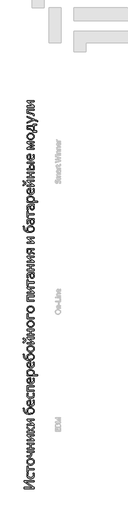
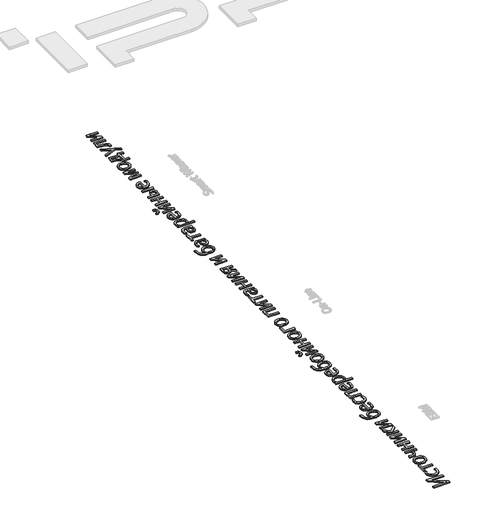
# One storey, part 2 of 10: 1 proxy.
"""IFC4 building model written with IfcOpenShell, lengths in millimetres."""

from ifc_helpers import new_model, si_unit, origin, origin_with_axes, place, context, project, spatial, polyline, outline, extrude, element, save

model = new_model("IFC4")

# Units and contexts
model_context = context("Model", 3, world=origin())
ifc_project = project(units=[si_unit("LENGTHUNIT", "METRE", prefix="MILLI")], contexts=[model_context])

# Site, building, storey
site = spatial("IfcSite", under=ifc_project)
building = spatial("IfcBuilding", under=site)
storey = spatial("IfcBuildingStorey", under=building, Name="Этаж 01", Elevation=0.0)

# Proxy
placement = place(None, origin())
element("IfcBuildingElementProxy", 1, Name="300 мм Corbel", ObjectType="300 мм Corbel", at=placement, inside=storey, context=model_context, shape_type="SweptSolid", body=[
    extrude(outline(polyline([(1442.0785227, -10444.0301069), (1442.0785227, -10407.4240139), (1742.5788966, -10407.4240139), (1742.5788966, -10446.377766), (1606.6755157, -10446.377766), (1493.2922728, -10443.5084048), (1575.0255921, -10498.5479698), (1742.5788966, -10615.6700774), (1742.5788966, -10652.2761704), (1442.0785227, -10652.2761704), (1442.0785227, -10613.3224182), (1593.8938158, -10613.3224182), (1691.3651465, -10616.1917794), (1609.6318273, -10561.1522144), (1442.0785227, -10444.0301069)])), origin_with_axes(), (0.0, 0.0, 1.0), 20.0),
    extrude(outline(polyline([(1525.5508488, -10251.3481542), (1528.6375859, -10221.9154642), (1537.2021943, -10197.8736953), (1564.504601, -10197.8736953), (1556.1573684, -10223.7414213), (1553.3749575, -10247.7831903), (1557.7224745, -10273.4335405), (1572.0258054, -10296.1275791), (1583.5902005, -10305.1595456), (1598.3717583, -10312.2568671), (1616.7291487, -10316.8543663), (1639.0210421, -10318.3868661), (1671.5404691, -10313.8219732), (1697.2777696, -10300.2577202), (1706.9509949, -10290.1062681), (1714.2330859, -10277.6506319), (1718.7979787, -10262.9886309), (1720.3196097, -10246.2180841), (1717.4067733, -10220.1764574), (1709.1899662, -10194.5695824), (1736.6662735, -10194.5695824), (1740.883365, -10204.4384459), (1744.6222296, -10217.9157486), (1747.1872646, -10233.5233346), (1748.1437183, -10250.0438991), (1746.5351371, -10270.8467679), (1741.7093932, -10290.475807), (1733.5360613, -10308.1375948), (1721.8847158, -10323.0387092), (1706.7227503, -10335.0813313), (1688.0175585, -10344.1676418), (1665.6604524, -10349.8737578), (1639.5427441, -10351.7757965), (1601.893247, -10347.7760809), (1572.5040322, -10336.7333877), (1550.8968728, -10320.0389225), (1536.3326909, -10298.90999), (1528.1158838, -10275.1725473), (1525.5508488, -10251.3481542)])), origin_with_axes(), (0.0, 0.0, 1.0), 20.0),
    extrude(outline(polyline([(1558.9397792, -10090.2291748), (1558.9397792, -10162.224056), (1531.1156706, -10162.224056), (1531.1156706, -9984.8453631), (1558.9397792, -9984.8453631), (1558.9397792, -10056.8402444), (1742.5788966, -10056.8402444), (1742.5788966, -10090.2291748), (1558.9397792, -10090.2291748)])), origin_with_axes(), (0.0, 0.0, 1.0), 20.0),
    extrude(outline(polyline([(1637.1081346, -9750.7750487), (1660.8781837, -9752.5466619), (1682.4527367, -9757.8615014), (1701.4622547, -9766.4261099), (1717.5371988, -9777.9470299), (1730.4927994, -9792.3047047), (1740.1442871, -9809.3795777), (1746.1438605, -9828.9216665), (1748.1437183, -9850.680989), (1746.1438605, -9872.9946199), (1740.1442871, -9892.8084286), (1730.4927994, -9909.9811207), (1717.5371988, -9924.3714019), (1701.4622547, -9935.8379779), (1682.4527367, -9944.2395545), (1660.8781837, -9949.3913621), (1637.1081346, -9951.1086313), (1613.0772345, -9949.3370182), (1591.4157311, -9944.0221786), (1572.3844755, -9935.4575702), (1556.2443187, -9923.9366502), (1543.2235053, -9909.546369), (1533.5502801, -9892.3736769), (1527.5507066, -9872.7337689), (1525.5508488, -9850.94184), (1527.5507066, -9828.8021098), (1533.5502801, -9808.9883012), (1543.2235053, -9791.7721339), (1556.2443187, -9777.4253279), (1572.3844755, -9766.0239646), (1591.4157311, -9757.6441256), (1613.0772345, -9752.492318), (1637.1081346, -9750.7750487)]), holes=[polyline([(1637.1081346, -9784.1639792), (1601.5889208, -9789.1201485), (1575.2864431, -9802.9887277), (1558.9397792, -9824.1611354), (1553.3749575, -9850.94184), (1558.9397792, -9877.7225447), (1575.2864431, -9898.8949524), (1601.5889208, -9912.7635315), (1637.1081346, -9917.7197009), (1672.3664973, -9912.7635315), (1698.5385496, -9898.7645269), (1714.7547879, -9877.5051688), (1720.3196097, -9850.680989), (1714.7547879, -9824.0307099), (1698.5385496, -9802.9887277), (1672.3664973, -9789.1201485), (1637.1081346, -9784.1639792)])]), origin_with_axes(), (0.0, 0.0, 1.0), 20.0),
    extrude(outline(polyline([(1649.5420332, -9572.7007531), (1660.236925, -9597.9163516), (1664.6713923, -9631.9139344), (1661.7585559, -9658.6076887), (1651.1940896, -9682.7798831), (1642.1186479, -9692.3444205), (1630.1955826, -9699.8221497), (1614.9684044, -9704.6478936), (1595.9806239, -9706.2564748), (1531.1156706, -9706.2564748), (1531.1156706, -9672.8675444), (1592.154809, -9672.8675444), (1610.1535293, -9670.9981121), (1624.3699098, -9664.2594608), (1633.5866458, -9650.9125836), (1636.8472836, -9629.4793249), (1632.7171424, -9598.3945785), (1620.7614707, -9572.7007531), (1531.1156706, -9572.7007531), (1531.1156706, -9539.3118227), (1742.5788966, -9539.3118227), (1742.5788966, -9572.7007531), (1649.5420332, -9572.7007531)])), origin_with_axes(), (0.0, 0.0, 1.0), 20.0),
    extrude(outline(polyline([(1742.5788966, -9333.4134184), (1647.9769271, -9333.4134184), (1647.9769271, -9439.1450314), (1742.5788966, -9439.1450314), (1742.5788966, -9472.5339618), (1531.1156706, -9472.5339618), (1531.1156706, -9439.1450314), (1620.1528184, -9439.1450314), (1620.1528184, -9333.4134184), (1531.1156706, -9333.4134184), (1531.1156706, -9300.0244879), (1742.5788966, -9300.0244879), (1742.5788966, -9333.4134184)])), origin_with_axes(), (0.0, 0.0, 1.0), 20.0),
    extrude(outline(polyline([(1742.5788966, -9196.9883354), (1742.5788966, -9227.6818053), (1531.1156706, -9227.6818053), (1531.1156706, -9194.2928749), (1647.1074237, -9194.2928749), (1692.9302527, -9195.4232293), (1669.7579871, -9179.1635158), (1642.846857, -9159.512739), (1531.1156706, -9074.7361579), (1531.1156706, -9044.042688), (1742.5788966, -9044.042688), (1742.5788966, -9077.4316184), (1626.5871435, -9077.4316184), (1580.7643145, -9076.301264), (1603.93658, -9092.6479278), (1630.8477101, -9112.3856549), (1742.5788966, -9196.9883354)])), origin_with_axes(), (0.0, 0.0, 1.0), 20.0),
    extrude(outline(polyline([(1634.5865747, -8943.7672088), (1531.1156706, -8851.1868346), (1531.1156706, -8807.1030124), (1636.4125319, -8902.6614357), (1742.5788966, -8801.2773396), (1742.5788966, -8845.8828639), (1638.9340917, -8943.441145), (1742.5788966, -8943.8758967), (1742.5788966, -8977.2648271), (1531.1156706, -8977.2648271), (1531.1156706, -8943.8758967), (1634.5865747, -8943.7672088)])), origin_with_axes(), (0.0, 0.0, 1.0), 20.0),
    extrude(outline(polyline([(1742.5788966, -8729.5433094), (1742.5788966, -8760.2367793), (1531.1156706, -8760.2367793), (1531.1156706, -8726.8478489), (1647.1074237, -8726.8478489), (1692.9302527, -8727.9782033), (1669.7579871, -8711.7184898), (1642.846857, -8692.067713), (1531.1156706, -8607.2911318), (1531.1156706, -8576.5976619), (1742.5788966, -8576.5976619), (1742.5788966, -8609.9865924), (1626.5871435, -8609.9865924), (1580.7643145, -8608.856238), (1603.93658, -8625.2029018), (1630.8477101, -8644.9406289), (1742.5788966, -8729.5433094)])), origin_with_axes(), (0.0, 0.0, 1.0), 20.0),
    extrude(outline(polyline([(1554.3314112, -8394.2627997), (1537.1587192, -8359.9608907), (1531.1156706, -8326.0937334), (1532.767727, -8306.7472828), (1537.7238964, -8289.40069), (1545.8428843, -8274.2387246), (1556.9833966, -8261.4461558), (1571.1345644, -8251.1534094), (1588.2855189, -8243.4909107), (1608.3167034, -8238.7303796), (1631.1085612, -8237.1435359), (1656.6936986, -8238.7847236), (1679.713801, -8243.7082865), (1699.7993295, -8251.7837993), (1716.5807451, -8262.8808364), (1729.9819662, -8276.9341851), (1739.9269113, -8293.8786325), (1746.0895166, -8313.5620157), (1748.1437183, -8335.8321714), (1745.9699599, -8357.3958557), (1739.4486844, -8376.5249304), (1728.2864345, -8393.0237573), (1712.1897529, -8406.6966982), (1691.0064764, -8417.5111467), (1664.5844419, -8425.4344964), (1632.6519297, -8430.2928467), (1594.9372199, -8431.9122967), (1557.8420312, -8430.2167651), (1525.6812743, -8425.1301703), (1498.2158358, -8416.3590547), (1475.2066021, -8403.6099612), (1456.6100983, -8386.7633329), (1442.3828489, -8365.6996131), (1432.3292159, -8340.147082), (1426.2535609, -8309.8340199), (1419.8192358, -8257.2290644), (1447.6433445, -8257.2290644), (1454.2515703, -8308.7036654), (1461.8162498, -8345.440184), (1468.0440679, -8359.78699), (1477.1629848, -8371.6122362), (1489.7490465, -8380.9593977), (1506.3782989, -8387.8719497), (1554.3314112, -8394.2627997)]), holes=[polyline([(1558.9397792, -8333.2236612), (1560.6244421, -8350.048552), (1565.6784306, -8367.3081944), (1583.2858743, -8398.5233663), (1604.3278565, -8399.218969), (1655.9763583, -8394.5671259), (1691.9737989, -8381.2637239), (1704.4294351, -8371.7209241), (1713.2766321, -8360.3956424), (1718.5588653, -8347.4943857), (1720.3196097, -8333.2236612), (1714.5808872, -8307.2689848), (1707.4618282, -8296.5849619), (1697.5820958, -8287.5747329), (1669.7579871, -8274.9669337), (1631.8911142, -8270.5324663), (1598.3282831, -8275.8799122), (1575.7211948, -8289.9658672), (1562.9394949, -8310.0513957), (1558.9397792, -8333.2236612)])]), origin_with_axes(), (0.0, 0.0, 1.0), 20.0),
    extrude(outline(polyline([(1720.3196097, -8082.6327823), (1717.4067733, -8051.2871849), (1709.1899662, -8023.0717997), (1736.6662735, -8023.0717997), (1745.0569813, -8051.1567594), (1748.1437183, -8087.0672496), (1742.3615208, -8129.7163912), (1734.7968412, -8148.1498633), (1723.6671977, -8163.5400734), (1708.7769521, -8175.8435464), (1689.9304659, -8185.0168073), (1666.9647075, -8190.7229233), (1639.7166448, -8192.624962), (1612.6968267, -8190.6468418), (1589.5462988, -8184.7124811), (1570.0694227, -8175.4957451), (1554.0705602, -8163.6704989), (1541.5931865, -8149.5410687), (1532.6807767, -8133.4117807), (1527.3333308, -8115.9130248), (1525.5508488, -8097.6751911), (1531.3765216, -8064.894913), (1538.8759884, -8050.6785325), (1549.7230432, -8038.4620098), (1564.0589805, -8028.4301143), (1582.0250944, -8020.7676157), (1603.7735481, -8015.9092654), (1629.4565047, -8014.2898153), (1633.9344472, -8014.2898153), (1642.4121053, -8014.5506664), (1642.4121053, -8161.0619887), (1662.1063573, -8159.529489), (1678.5834466, -8154.9319897), (1692.0390117, -8147.6825052), (1702.6686907, -8138.1940494), (1716.1025182, -8113.3262522), (1720.3196097, -8082.6327823)]), holes=[polyline([(1553.3749575, -8099.1533469), (1558.2007014, -8122.0212862), (1571.3302026, -8140.4547582), (1590.7636036, -8153.2364581), (1614.5879966, -8159.2360316), (1614.5879966, -8047.9395968), (1590.5462277, -8051.2871849), (1571.1128268, -8061.1560484), (1558.113751, -8077.1549109), (1553.3749575, -8099.1533469)])]), origin_with_axes(), (0.0, 0.0, 1.0), 20.0),
    extrude(outline(polyline([(1525.5508488, -7864.0396284), (1528.6375859, -7834.6069384), (1537.2021943, -7810.5651695), (1564.504601, -7810.5651695), (1556.1573684, -7836.4328956), (1553.3749575, -7860.4746645), (1557.7224745, -7886.1250147), (1572.0258054, -7908.8190533), (1583.5902005, -7917.8510199), (1598.3717583, -7924.9483413), (1616.7291487, -7929.5458406), (1639.0210421, -7931.0783403), (1671.5404691, -7926.5134475), (1697.2777696, -7912.9491945), (1706.9509949, -7902.7977423), (1714.2330859, -7890.3421062), (1718.7979787, -7875.6801051), (1720.3196097, -7858.9095584), (1717.4067733, -7832.8679316), (1709.1899662, -7807.2610566), (1736.6662735, -7807.2610566), (1740.883365, -7817.1299202), (1744.6222296, -7830.6072228), (1747.1872646, -7846.2148088), (1748.1437183, -7862.7353733), (1746.5351371, -7883.5382421), (1741.7093932, -7903.1672813), (1733.5360613, -7920.829069), (1721.8847158, -7935.7301835), (1706.7227503, -7947.7728055), (1688.0175585, -7956.859116), (1665.6604524, -7962.565232), (1639.5427441, -7964.4672707), (1601.893247, -7960.4675551), (1572.5040322, -7949.424862), (1550.8968728, -7932.7303967), (1536.3326909, -7911.6014642), (1528.1158838, -7887.8640215), (1525.5508488, -7864.0396284)])), origin_with_axes(), (0.0, 0.0, 1.0), 20.0),
    extrude(outline(polyline([(1558.9397792, -7719.6151142), (1742.5788966, -7719.6151142), (1742.5788966, -7753.0040447), (1531.1156706, -7753.0040447), (1531.1156706, -7580.4945708), (1742.5788966, -7580.4945708), (1742.5788966, -7613.8835012), (1558.9397792, -7613.8835012), (1558.9397792, -7719.6151142)])), origin_with_axes(), (0.0, 0.0, 1.0), 20.0),
    extrude(outline(polyline([(1720.3196097, -7414.8541737), (1717.4067733, -7383.5085763), (1709.1899662, -7355.293191), (1736.6662735, -7355.293191), (1745.0569813, -7383.3781508), (1748.1437183, -7419.288641), (1742.3615208, -7461.9377826), (1734.7968412, -7480.3712546), (1723.6671977, -7495.7614648), (1708.7769521, -7508.0649378), (1689.9304659, -7517.2381987), (1666.9647075, -7522.9443147), (1639.7166448, -7524.8463534), (1612.6968267, -7522.8682332), (1589.5462988, -7516.9338725), (1570.0694227, -7507.7171365), (1554.0705602, -7495.8918903), (1541.5931865, -7481.7624601), (1532.6807767, -7465.6331721), (1527.3333308, -7448.1344162), (1525.5508488, -7429.8965825), (1531.3765216, -7397.1163044), (1538.8759884, -7382.8999239), (1549.7230432, -7370.6834012), (1564.0589805, -7360.6515057), (1582.0250944, -7352.989007), (1603.7735481, -7348.1306568), (1629.4565047, -7346.5112067), (1633.9344472, -7346.5112067), (1642.4121053, -7346.7720578), (1642.4121053, -7493.2833801), (1662.1063573, -7491.7508804), (1678.5834466, -7487.1533811), (1692.0390117, -7479.9038966), (1702.6686907, -7470.4154408), (1716.1025182, -7445.5476436), (1720.3196097, -7414.8541737)]), holes=[polyline([(1553.3749575, -7431.3747382), (1558.2007014, -7454.2426776), (1571.3302026, -7472.6761496), (1590.7636036, -7485.4578495), (1614.5879966, -7491.457423), (1614.5879966, -7380.1609882), (1590.5462277, -7383.5085763), (1571.1128268, -7393.3774398), (1558.113751, -7409.3763023), (1553.3749575, -7431.3747382)])]), origin_with_axes(), (0.0, 0.0, 1.0), 20.0),
    extrude(outline(polyline([(1634.4126741, -7101.9199013), (1673.4533766, -7106.2239431), (1703.1903927, -7117.5274872), (1724.4497508, -7133.9611014), (1738.2313796, -7153.5249279), (1745.7960592, -7174.0886832), (1748.1437183, -7193.7394599), (1746.5568747, -7211.596886), (1741.7963436, -7226.9110145), (1733.9273378, -7240.2470229), (1723.0150702, -7252.1700882), (1848.3105096, -7252.7787406), (1848.3105096, -7285.5590186), (1531.1156706, -7285.5590186), (1531.1156706, -7260.0825691), (1555.1139643, -7252.8656909), (1546.4624055, -7244.9097348), (1537.4630453, -7232.910588), (1529.1158127, -7214.7814421), (1525.5508488, -7191.7396021), (1531.5504222, -7158.0898207), (1539.3324776, -7142.7865609), (1550.679497, -7129.3962086), (1565.6784306, -7118.1904836), (1584.4162288, -7109.4411056), (1607.2189553, -7103.8002024), (1634.4126741, -7101.9199013)]), holes=[polyline([(1634.6735251, -7135.3088317), (1600.849843, -7139.221597), (1575.3299183, -7150.9598928), (1559.0702048, -7170.2193931), (1553.3749575, -7196.6088212), (1556.4616946, -7216.2161228), (1564.24375, -7232.2149852), (1574.3734645, -7244.5184583), (1584.0684274, -7252.7787406), (1694.7562098, -7252.7787406), (1713.4505328, -7227.8239931), (1718.6023404, -7213.3032864), (1720.3196097, -7197.7391756), (1716.5807451, -7176.9580444), (1703.1903927, -7156.6986153), (1676.9313902, -7141.3518803), (1658.0631665, -7136.8195938), (1634.6735251, -7135.3088317)])]), origin_with_axes(), (0.0, 0.0, 1.0), 20.0),
    extrude(outline(polyline([(1720.3196097, -6941.8443259), (1717.4067733, -6910.4987285), (1709.1899662, -6882.2833433), (1736.6662735, -6882.2833433), (1745.0569813, -6910.368303), (1748.1437183, -6946.2787933), (1742.3615208, -6988.9279349), (1734.7968412, -7007.3614069), (1723.6671977, -7022.751617), (1708.7769521, -7035.0550901), (1689.9304659, -7044.2283509), (1666.9647075, -7049.9344669), (1639.7166448, -7051.8365056), (1612.6968267, -7049.8583854), (1589.5462988, -7043.9240247), (1570.0694227, -7034.7072887), (1554.0705602, -7022.8820425), (1541.5931865, -7008.7526123), (1532.6807767, -6992.6233243), (1527.3333308, -6975.1245685), (1525.5508488, -6956.8867347), (1531.3765216, -6924.1064567), (1538.8759884, -6909.8900761), (1549.7230432, -6897.6735534), (1564.0589805, -6887.641658), (1582.0250944, -6879.9791593), (1603.7735481, -6875.120809), (1629.4565047, -6873.501359), (1633.9344472, -6873.501359), (1642.4121053, -6873.76221), (1642.4121053, -7020.2735323), (1662.1063573, -7018.7410326), (1678.5834466, -7014.1435334), (1692.0390117, -7006.8940488), (1702.6686907, -6997.405593), (1716.1025182, -6972.5377958), (1720.3196097, -6941.8443259)]), holes=[polyline([(1553.3749575, -6958.3648905), (1558.2007014, -6981.2328298), (1571.3302026, -6999.6663018), (1590.7636036, -7012.4480018), (1614.5879966, -7018.4475752), (1614.5879966, -6907.1511404), (1590.5462277, -6910.4987285), (1571.1128268, -6920.367592), (1558.113751, -6936.3664545), (1553.3749575, -6958.3648905)])]), origin_with_axes(), (0.0, 0.0, 1.0), 20.0),
    extrude(outline(polyline([(1554.3314112, -6786.0293173), (1537.1587192, -6751.7274083), (1531.1156706, -6717.860251), (1532.767727, -6698.5138004), (1537.7238964, -6681.1672076), (1545.8428843, -6666.0052422), (1556.9833966, -6653.2126734), (1571.1345644, -6642.919927), (1588.2855189, -6635.2574283), (1608.3167034, -6630.4968972), (1631.1085612, -6628.9100535), (1656.6936986, -6630.5512412), (1679.713801, -6635.4748041), (1699.7993295, -6643.5503169), (1716.5807451, -6654.647354), (1729.9819662, -6668.7007027), (1739.9269113, -6685.6451501), (1746.0895166, -6705.3285333), (1748.1437183, -6727.598689), (1745.9699599, -6749.1623733), (1739.4486844, -6768.291448), (1728.2864345, -6784.7902749), (1712.1897529, -6798.4632158), (1691.0064764, -6809.2776643), (1664.5844419, -6817.201014), (1632.6519297, -6822.0593643), (1594.9372199, -6823.6788143), (1557.8420312, -6821.9832827), (1525.6812743, -6816.8966879), (1498.2158358, -6808.1255723), (1475.2066021, -6795.3764788), (1456.6100983, -6778.5298505), (1442.3828489, -6757.4661307), (1432.3292159, -6731.9135996), (1426.2535609, -6701.6005375), (1419.8192358, -6648.995582), (1447.6433445, -6648.995582), (1454.2515703, -6700.470183), (1461.8162498, -6737.2067016), (1468.0440679, -6751.5535076), (1477.1629848, -6763.3787538), (1489.7490465, -6772.7259153), (1506.3782989, -6779.6384673), (1554.3314112, -6786.0293173)]), holes=[polyline([(1558.9397792, -6724.9901788), (1560.6244421, -6741.8150696), (1565.6784306, -6759.074712), (1583.2858743, -6790.2898839), (1604.3278565, -6790.9854866), (1655.9763583, -6786.3336435), (1691.9737989, -6773.0302415), (1704.4294351, -6763.4874417), (1713.2766321, -6752.16216), (1718.5588653, -6739.2609033), (1720.3196097, -6724.9901788), (1714.5808872, -6699.0355024), (1707.4618282, -6688.3514795), (1697.5820958, -6679.3412505), (1669.7579871, -6666.7334513), (1631.8911142, -6662.2989839), (1598.3282831, -6667.6464298), (1575.7211948, -6681.7323848), (1562.9394949, -6701.8179133), (1558.9397792, -6724.9901788)])]), origin_with_axes(), (0.0, 0.0, 1.0), 20.0),
    extrude(outline(polyline([(1637.1081346, -6384.057897), (1660.8781837, -6385.8295102), (1682.4527367, -6391.1443497), (1701.4622547, -6399.7089581), (1717.5371988, -6411.2298782), (1730.4927994, -6425.587553), (1740.1442871, -6442.6624259), (1746.1438605, -6462.2045148), (1748.1437183, -6483.9638373), (1746.1438605, -6506.2774682), (1740.1442871, -6526.0912768), (1730.4927994, -6543.2639689), (1717.5371988, -6557.6542501), (1701.4622547, -6569.1208262), (1682.4527367, -6577.5224028), (1660.8781837, -6582.6742104), (1637.1081346, -6584.3914796), (1613.0772345, -6582.6198664), (1591.4157311, -6577.3050269), (1572.3844755, -6568.7404185), (1556.2443187, -6557.2194984), (1543.2235053, -6542.8292172), (1533.5502801, -6525.6565252), (1527.5507066, -6506.0166172), (1525.5508488, -6484.2246883), (1527.5507066, -6462.0849581), (1533.5502801, -6442.2711494), (1543.2235053, -6425.0549822), (1556.2443187, -6410.7081761), (1572.3844755, -6399.3068128), (1591.4157311, -6390.9269738), (1613.0772345, -6385.7751662), (1637.1081346, -6384.057897)]), holes=[polyline([(1637.1081346, -6417.4468274), (1601.5889208, -6422.4029968), (1575.2864431, -6436.271576), (1558.9397792, -6457.4439837), (1553.3749575, -6484.2246883), (1558.9397792, -6511.0053929), (1575.2864431, -6532.1778006), (1601.5889208, -6546.0463798), (1637.1081346, -6551.0025492), (1672.3664973, -6546.0463798), (1698.5385496, -6532.0473751), (1714.7547879, -6510.7880171), (1720.3196097, -6483.9638373), (1714.7547879, -6457.3135582), (1698.5385496, -6436.271576), (1672.3664973, -6422.4029968), (1637.1081346, -6417.4468274)])]), origin_with_axes(), (0.0, 0.0, 1.0), 20.0),
    extrude(outline(polyline([(1458.772988, -6234.1555114), (1455.892758, -6219.0478899), (1447.2520679, -6207.1139558), (1433.2421945, -6198.7449856), (1414.254414, -6194.3322559), (1414.254414, -6163.1170839), (1442.2089482, -6169.1166574), (1465.1638379, -6183.2460876), (1480.8148991, -6205.0706228), (1485.1515472, -6218.8196453), (1486.5970966, -6234.4163625), (1485.1515472, -6249.784835), (1480.8148991, -6263.3708256), (1465.1638379, -6284.8475595), (1442.2089482, -6298.542238), (1414.254414, -6304.3244355), (1414.254414, -6273.3701146), (1433.2421945, -6269.0660728), (1447.2520679, -6261.0231664), (1455.892758, -6249.3500833), (1458.772988, -6234.1555114)])), origin_with_axes(), (0.0, 0.0, 1.0), 20.0),
    extrude(outline(polyline([(1742.5788966, -6297.7162097), (1742.5788966, -6328.4096796), (1531.1156706, -6328.4096796), (1531.1156706, -6295.0207492), (1647.1074237, -6295.0207492), (1692.9302527, -6296.1511036), (1669.7579871, -6279.8913901), (1642.846857, -6260.2406133), (1531.1156706, -6175.4640322), (1531.1156706, -6144.7705623), (1742.5788966, -6144.7705623), (1742.5788966, -6178.1594927), (1626.5871435, -6178.1594927), (1580.7643145, -6177.0291383), (1603.93658, -6193.3758021), (1630.8477101, -6213.1135292), (1742.5788966, -6297.7162097)])), origin_with_axes(), (0.0, 0.0, 1.0), 20.0),
    extrude(outline(polyline([(1742.5788966, -5938.8721579), (1647.9769271, -5938.8721579), (1647.9769271, -6044.603771), (1742.5788966, -6044.603771), (1742.5788966, -6077.9927014), (1531.1156706, -6077.9927014), (1531.1156706, -6044.603771), (1620.1528184, -6044.603771), (1620.1528184, -5938.8721579), (1531.1156706, -5938.8721579), (1531.1156706, -5905.4832275), (1742.5788966, -5905.4832275), (1742.5788966, -5938.8721579)])), origin_with_axes(), (0.0, 0.0, 1.0), 20.0),
    extrude(outline(polyline([(1637.1081346, -5643.9366058), (1660.8781837, -5645.708219), (1682.4527367, -5651.0230585), (1701.4622547, -5659.5876669), (1717.5371988, -5671.1085869), (1730.4927994, -5685.4662618), (1740.1442871, -5702.5411347), (1746.1438605, -5722.0832236), (1748.1437183, -5743.8425461), (1746.1438605, -5766.156177), (1740.1442871, -5785.9699856), (1730.4927994, -5803.1426777), (1717.5371988, -5817.5329589), (1701.4622547, -5828.999535), (1682.4527367, -5837.4011116), (1660.8781837, -5842.5529192), (1637.1081346, -5844.2701884), (1613.0772345, -5842.4985752), (1591.4157311, -5837.1837357), (1572.3844755, -5828.6191272), (1556.2443187, -5817.0982072), (1543.2235053, -5802.707926), (1533.5502801, -5785.5352339), (1527.5507066, -5765.895326), (1525.5508488, -5744.1033971), (1527.5507066, -5721.9636669), (1533.5502801, -5702.1498582), (1543.2235053, -5684.933691), (1556.2443187, -5670.5868849), (1572.3844755, -5659.1855216), (1591.4157311, -5650.8056826), (1613.0772345, -5645.653875), (1637.1081346, -5643.9366058)]), holes=[polyline([(1637.1081346, -5677.3255362), (1601.5889208, -5682.2817056), (1575.2864431, -5696.1502848), (1558.9397792, -5717.3226925), (1553.3749575, -5744.1033971), (1558.9397792, -5770.8841017), (1575.2864431, -5792.0565094), (1601.5889208, -5805.9250886), (1637.1081346, -5810.881258), (1672.3664973, -5805.9250886), (1698.5385496, -5791.9260839), (1714.7547879, -5770.6667259), (1720.3196097, -5743.8425461), (1714.7547879, -5717.192267), (1698.5385496, -5696.1502848), (1672.3664973, -5682.2817056), (1637.1081346, -5677.3255362)])]), origin_with_axes(), (0.0, 0.0, 1.0), 20.0),
    extrude(outline(polyline([(1558.9397792, -5445.5159307), (1558.9397792, -5554.899458), (1742.5788966, -5554.899458), (1742.5788966, -5588.2883884), (1531.1156706, -5588.2883884), (1531.1156706, -5445.5159307), (1558.9397792, -5445.5159307)])), origin_with_axes(), (0.0, 0.0, 1.0), 20.0),
    extrude(outline(polyline([(1637.1081346, -5209.8805102), (1660.8781837, -5211.6521234), (1682.4527367, -5216.9669629), (1701.4622547, -5225.5315713), (1717.5371988, -5237.0524914), (1730.4927994, -5251.4101662), (1740.1442871, -5268.4850391), (1746.1438605, -5288.027128), (1748.1437183, -5309.7864505), (1746.1438605, -5332.1000814), (1740.1442871, -5351.91389), (1730.4927994, -5369.0865821), (1717.5371988, -5383.4768633), (1701.4622547, -5394.9434394), (1682.4527367, -5403.345016), (1660.8781837, -5408.4968236), (1637.1081346, -5410.2140928), (1613.0772345, -5408.4424796), (1591.4157311, -5403.1276401), (1572.3844755, -5394.5630316), (1556.2443187, -5383.0421116), (1543.2235053, -5368.6518304), (1533.5502801, -5351.4791383), (1527.5507066, -5331.8392304), (1525.5508488, -5310.0473015), (1527.5507066, -5287.9075713), (1533.5502801, -5268.0937626), (1543.2235053, -5250.8775954), (1556.2443187, -5236.5307893), (1572.3844755, -5225.129426), (1591.4157311, -5216.749587), (1613.0772345, -5211.5977794), (1637.1081346, -5209.8805102)]), holes=[polyline([(1637.1081346, -5243.2694406), (1601.5889208, -5248.22561), (1575.2864431, -5262.0941892), (1558.9397792, -5283.2665969), (1553.3749575, -5310.0473015), (1558.9397792, -5336.8280061), (1575.2864431, -5358.0004138), (1601.5889208, -5371.868993), (1637.1081346, -5376.8251624), (1672.3664973, -5371.868993), (1698.5385496, -5357.8699883), (1714.7547879, -5336.6106303), (1720.3196097, -5309.7864505), (1714.7547879, -5283.1361714), (1698.5385496, -5262.0941892), (1672.3664973, -5248.22561), (1637.1081346, -5243.2694406)])]), origin_with_axes(), (0.0, 0.0, 1.0), 20.0),
    extrude(outline(polyline([(1558.9397792, -5031.8062146), (1742.5788966, -5031.8062146), (1742.5788966, -5065.195145), (1531.1156706, -5065.195145), (1531.1156706, -4892.6856711), (1742.5788966, -4892.6856711), (1742.5788966, -4926.0746015), (1558.9397792, -4926.0746015), (1558.9397792, -5031.8062146)])), origin_with_axes(), (0.0, 0.0, 1.0), 20.0),
    extrude(outline(polyline([(1742.5788966, -4795.2143404), (1742.5788966, -4825.9078103), (1531.1156706, -4825.9078103), (1531.1156706, -4792.5188798), (1647.1074237, -4792.5188798), (1692.9302527, -4793.6492342), (1669.7579871, -4777.3895207), (1642.846857, -4757.738744), (1531.1156706, -4672.9621628), (1531.1156706, -4642.2686929), (1742.5788966, -4642.2686929), (1742.5788966, -4675.6576233), (1626.5871435, -4675.6576233), (1580.7643145, -4674.5272689), (1603.93658, -4690.8739328), (1630.8477101, -4710.6116599), (1742.5788966, -4795.2143404)])), origin_with_axes(), (0.0, 0.0, 1.0), 20.0),
    extrude(outline(polyline([(1558.9397792, -4525.4074364), (1558.9397792, -4597.4023176), (1531.1156706, -4597.4023176), (1531.1156706, -4420.0236247), (1558.9397792, -4420.0236247), (1558.9397792, -4492.018506), (1742.5788966, -4492.018506), (1742.5788966, -4525.4074364), (1558.9397792, -4525.4074364)])), origin_with_axes(), (0.0, 0.0, 1.0), 20.0),
    extrude(outline(polyline([(1719.1892552, -4251.6877671), (1729.7537215, -4263.2086871), (1739.1443582, -4277.9467697), (1745.7091088, -4296.206341), (1748.1437183, -4317.3352736), (1743.6657759, -4345.2028574), (1730.4927994, -4366.9839175), (1709.3203917, -4381.2002981), (1681.0180561, -4386.2868929), (1653.1939474, -4380.6351208), (1632.3693411, -4364.810159), (1619.1963646, -4340.3336384), (1614.5879966, -4308.7271899), (1617.5443082, -4278.4249966), (1624.2394843, -4253.6006746), (1609.1101252, -4252.7311712), (1592.5460855, -4253.8615256), (1579.8948111, -4257.6873406), (1569.4064264, -4265.1650698), (1560.8961619, -4276.1208126), (1555.2552586, -4291.0545334), (1553.3749575, -4310.4661967), (1556.3312691, -4340.6814398), (1564.504601, -4368.8098747), (1537.2891447, -4368.8098747), (1532.5503512, -4356.2455506), (1528.7680114, -4340.985766), (1526.376877, -4324.0739249), (1525.5508488, -4306.2056301), (1528.3876036, -4277.1207415), (1536.8978681, -4254.0354263), (1550.0817134, -4236.819259), (1566.9392105, -4225.3418142), (1582.6337468, -4220.7334462), (1601.4584953, -4219.3422408), (1742.5788966, -4219.3422408), (1742.5788966, -4247.9489025), (1719.1892552, -4251.6877671)]), holes=[polyline([(1650.3245862, -4252.7311712), (1645.151041, -4275.8164864), (1642.4121053, -4305.162226), (1644.7815021, -4325.1499353), (1651.8896923, -4340.2466881), (1663.9105768, -4349.7351439), (1681.0180561, -4352.8979625), (1698.4081241, -4349.7242751), (1710.7115971, -4341.0292411), (1717.9284753, -4327.943215), (1720.3196097, -4311.7704518), (1717.0589719, -4290.7284696), (1709.2769165, -4273.425352), (1700.2340812, -4260.5567018), (1693.1911037, -4252.7311712), (1650.3245862, -4252.7311712)])]), origin_with_axes(), (0.0, 0.0, 1.0), 20.0),
    extrude(outline(polyline([(1742.5788966, -4013.4438364), (1647.9769271, -4013.4438364), (1647.9769271, -4119.1754495), (1742.5788966, -4119.1754495), (1742.5788966, -4152.5643799), (1531.1156706, -4152.5643799), (1531.1156706, -4119.1754495), (1620.1528184, -4119.1754495), (1620.1528184, -4013.4438364), (1531.1156706, -4013.4438364), (1531.1156706, -3980.054906), (1742.5788966, -3980.054906), (1742.5788966, -4013.4438364)])), origin_with_axes(), (0.0, 0.0, 1.0), 20.0),
    extrude(outline(polyline([(1742.5788966, -3877.0187535), (1742.5788966, -3907.7122234), (1531.1156706, -3907.7122234), (1531.1156706, -3874.323293), (1647.1074237, -3874.323293), (1692.9302527, -3875.4536474), (1669.7579871, -3859.1939339), (1642.846857, -3839.5431571), (1531.1156706, -3754.766576), (1531.1156706, -3724.0731061), (1742.5788966, -3724.0731061), (1742.5788966, -3757.4620365), (1626.5871435, -3757.4620365), (1580.7643145, -3756.3316821), (1603.93658, -3772.6783459), (1630.8477101, -3792.416073), (1742.5788966, -3877.0187535)])), origin_with_axes(), (0.0, 0.0, 1.0), 20.0),
    extrude(outline(polyline([(1599.6325382, -3662.8600669), (1580.7099705, -3660.3819822), (1563.5916224, -3652.9477282), (1549.2556852, -3640.4920921), (1538.6803501, -3622.949861), (1533.028578, -3602.9512829), (1531.1156706, -3575.3010749), (1531.1156706, -3495.9154148), (1742.5788966, -3495.9154148), (1742.5788966, -3529.3043452), (1659.1065705, -3529.3043452), (1659.1065705, -3584.9525626), (1742.5788966, -3635.0359582), (1742.5788966, -3668.4248887), (1655.2807556, -3618.341493), (1647.6291257, -3637.0792912), (1635.151752, -3651.0348207), (1618.7616129, -3659.816805), (1599.6325382, -3662.8600669)]), holes=[polyline([(1558.9397792, -3575.0402239), (1559.9831833, -3594.1692986), (1563.7220479, -3608.1683033), (1576.4167975, -3623.7758893), (1585.8074342, -3628.0473247), (1597.284879, -3629.4711365), (1613.153316, -3626.1670236), (1623.630832, -3616.5590111), (1629.4565047, -3601.3861768), (1631.2824618, -3581.3875987), (1631.2824618, -3529.3043452), (1558.9397792, -3529.3043452), (1558.9397792, -3575.0402239)])]), origin_with_axes(), (0.0, 0.0, 1.0), 20.0),
    extrude(outline(polyline([(1742.5788966, -3309.4069362), (1742.5788966, -3340.1004061), (1531.1156706, -3340.1004061), (1531.1156706, -3306.7114757), (1647.1074237, -3306.7114757), (1692.9302527, -3307.8418301), (1669.7579871, -3291.5821166), (1642.846857, -3271.9313398), (1531.1156706, -3187.1547586), (1531.1156706, -3156.4612887), (1742.5788966, -3156.4612887), (1742.5788966, -3189.8502192), (1626.5871435, -3189.8502192), (1580.7643145, -3188.7198647), (1603.93658, -3205.0665286), (1630.8477101, -3224.8042557), (1742.5788966, -3309.4069362)])), origin_with_axes(), (0.0, 0.0, 1.0), 20.0),
    extrude(outline(polyline([(1554.3314112, -2974.1264265), (1537.1587192, -2939.8245175), (1531.1156706, -2905.9573602), (1532.767727, -2886.6109096), (1537.7238964, -2869.2643168), (1545.8428843, -2854.1023513), (1556.9833966, -2841.3097826), (1571.1345644, -2831.0170362), (1588.2855189, -2823.3545375), (1608.3167034, -2818.5940064), (1631.1085612, -2817.0071627), (1656.6936986, -2818.6483504), (1679.713801, -2823.5719133), (1699.7993295, -2831.6474261), (1716.5807451, -2842.7444632), (1729.9819662, -2856.7978119), (1739.9269113, -2873.7422593), (1746.0895166, -2893.4256425), (1748.1437183, -2915.6957982), (1745.9699599, -2937.2594824), (1739.4486844, -2956.3885572), (1728.2864345, -2972.8873841), (1712.1897529, -2986.560325), (1691.0064764, -2997.3747735), (1664.5844419, -3005.2981232), (1632.6519297, -3010.1564735), (1594.9372199, -3011.7759235), (1557.8420312, -3010.0803919), (1525.6812743, -3004.993797), (1498.2158358, -2996.2226815), (1475.2066021, -2983.473588), (1456.6100983, -2966.6269597), (1442.3828489, -2945.5632399), (1432.3292159, -2920.0107088), (1426.2535609, -2889.6976466), (1419.8192358, -2837.0926912), (1447.6433445, -2837.0926912), (1454.2515703, -2888.5672922), (1461.8162498, -2925.3038107), (1468.0440679, -2939.6506168), (1477.1629848, -2951.475863), (1489.7490465, -2960.8230245), (1506.3782989, -2967.7355765), (1554.3314112, -2974.1264265)]), holes=[polyline([(1558.9397792, -2913.087288), (1560.6244421, -2929.9121787), (1565.6784306, -2947.1718212), (1583.2858743, -2978.3869931), (1604.3278565, -2979.0825958), (1655.9763583, -2974.4307527), (1691.9737989, -2961.1273507), (1704.4294351, -2951.5845509), (1713.2766321, -2940.2592692), (1718.5588653, -2927.3580125), (1720.3196097, -2913.087288), (1714.5808872, -2887.1326116), (1707.4618282, -2876.4485886), (1697.5820958, -2867.4383597), (1669.7579871, -2854.8305604), (1631.8911142, -2850.3960931), (1598.3282831, -2855.743539), (1575.7211948, -2869.829494), (1562.9394949, -2889.9150225), (1558.9397792, -2913.087288)])]), origin_with_axes(), (0.0, 0.0, 1.0), 20.0),
    extrude(outline(polyline([(1719.1892552, -2637.889463), (1729.7537215, -2649.410383), (1739.1443582, -2664.1484656), (1745.7091088, -2682.4080369), (1748.1437183, -2703.5369694), (1743.6657759, -2731.4045533), (1730.4927994, -2753.1856134), (1709.3203917, -2767.4019939), (1681.0180561, -2772.4885888), (1653.1939474, -2766.8368167), (1632.3693411, -2751.0118549), (1619.1963646, -2726.5353343), (1614.5879966, -2694.9288858), (1617.5443082, -2664.6266924), (1624.2394843, -2639.8023705), (1609.1101252, -2638.9328671), (1592.5460855, -2640.0632215), (1579.8948111, -2643.8890364), (1569.4064264, -2651.3667656), (1560.8961619, -2662.3225084), (1555.2552586, -2677.2562293), (1553.3749575, -2696.6678926), (1556.3312691, -2726.8831356), (1564.504601, -2755.0115705), (1537.2891447, -2755.0115705), (1532.5503512, -2742.4472464), (1528.7680114, -2727.1874618), (1526.376877, -2710.2756208), (1525.5508488, -2692.407326), (1528.3876036, -2663.3224373), (1536.8978681, -2640.2371222), (1550.0817134, -2623.0209549), (1566.9392105, -2611.5435101), (1582.6337468, -2606.9351421), (1601.4584953, -2605.5439366), (1742.5788966, -2605.5439366), (1742.5788966, -2634.1505984), (1719.1892552, -2637.889463)]), holes=[polyline([(1650.3245862, -2638.9328671), (1645.151041, -2662.0181822), (1642.4121053, -2691.3639219), (1644.7815021, -2711.3516312), (1651.8896923, -2726.4483839), (1663.9105768, -2735.9368397), (1681.0180561, -2739.0996584), (1698.4081241, -2735.925971), (1710.7115971, -2727.230937), (1717.9284753, -2714.1449109), (1720.3196097, -2697.9721477), (1717.0589719, -2676.9301655), (1709.2769165, -2659.6270479), (1700.2340812, -2646.7583976), (1693.1911037, -2638.9328671), (1650.3245862, -2638.9328671)])]), origin_with_axes(), (0.0, 0.0, 1.0), 20.0),
    extrude(outline(polyline([(1558.9397792, -2488.6826801), (1558.9397792, -2560.6775614), (1531.1156706, -2560.6775614), (1531.1156706, -2383.2988685), (1558.9397792, -2383.2988685), (1558.9397792, -2455.2937497), (1742.5788966, -2455.2937497), (1742.5788966, -2488.6826801), (1558.9397792, -2488.6826801)])), origin_with_axes(), (0.0, 0.0, 1.0), 20.0),
    extrude(outline(polyline([(1719.1892552, -2214.9630109), (1729.7537215, -2226.4839309), (1739.1443582, -2241.2220134), (1745.7091088, -2259.4815848), (1748.1437183, -2280.6105173), (1743.6657759, -2308.4781012), (1730.4927994, -2330.2591613), (1709.3203917, -2344.4755418), (1681.0180561, -2349.5621367), (1653.1939474, -2343.9103646), (1632.3693411, -2328.0854028), (1619.1963646, -2303.6088822), (1614.5879966, -2272.0024337), (1617.5443082, -2241.7002403), (1624.2394843, -2216.8759183), (1609.1101252, -2216.0064149), (1592.5460855, -2217.1367694), (1579.8948111, -2220.9625843), (1569.4064264, -2228.4403135), (1560.8961619, -2239.3960563), (1555.2552586, -2254.3297771), (1553.3749575, -2273.7414405), (1556.3312691, -2303.9566835), (1564.504601, -2332.0851184), (1537.2891447, -2332.0851184), (1532.5503512, -2319.5207943), (1528.7680114, -2304.2610097), (1526.376877, -2287.3491686), (1525.5508488, -2269.4808738), (1528.3876036, -2240.3959852), (1536.8978681, -2217.31067), (1550.0817134, -2200.0945028), (1566.9392105, -2188.6170579), (1582.6337468, -2184.0086899), (1601.4584953, -2182.6174845), (1742.5788966, -2182.6174845), (1742.5788966, -2211.2241463), (1719.1892552, -2214.9630109)]), holes=[polyline([(1650.3245862, -2216.0064149), (1645.151041, -2239.0917301), (1642.4121053, -2268.4374698), (1644.7815021, -2288.4251791), (1651.8896923, -2303.5219318), (1663.9105768, -2313.0103876), (1681.0180561, -2316.1732062), (1698.4081241, -2312.9995188), (1710.7115971, -2304.3044849), (1717.9284753, -2291.2184588), (1720.3196097, -2275.0456956), (1717.0589719, -2254.0037134), (1709.2769165, -2236.7005958), (1700.2340812, -2223.8319455), (1693.1911037, -2216.0064149), (1650.3245862, -2216.0064149)])]), origin_with_axes(), (0.0, 0.0, 1.0), 20.0),
    extrude(outline(polyline([(1634.4126741, -1932.2005063), (1673.4533766, -1936.5045481), (1703.1903927, -1947.8080923), (1724.4497508, -1964.2417064), (1738.2313796, -1983.8055329), (1745.7960592, -2004.3692882), (1748.1437183, -2024.020065), (1746.5568747, -2041.877491), (1741.7963436, -2057.1916195), (1733.9273378, -2070.5276279), (1723.0150702, -2082.4506932), (1848.3105096, -2083.0593456), (1848.3105096, -2115.8396237), (1531.1156706, -2115.8396237), (1531.1156706, -2090.3631741), (1555.1139643, -2083.1462959), (1546.4624055, -2075.1903399), (1537.4630453, -2063.191193), (1529.1158127, -2045.0620472), (1525.5508488, -2022.0202072), (1531.5504222, -1988.3704257), (1539.3324776, -1973.0671659), (1550.679497, -1959.6768136), (1565.6784306, -1948.4710886), (1584.4162288, -1939.7217107), (1607.2189553, -1934.0808074), (1634.4126741, -1932.2005063)]), holes=[polyline([(1634.6735251, -1965.5894367), (1600.849843, -1969.502202), (1575.3299183, -1981.2404979), (1559.0702048, -2000.4999981), (1553.3749575, -2026.8894262), (1556.4616946, -2046.4967278), (1564.24375, -2062.4955903), (1574.3734645, -2074.7990633), (1584.0684274, -2083.0593456), (1694.7562098, -2083.0593456), (1713.4505328, -2058.1045981), (1718.6023404, -2043.5838914), (1720.3196097, -2028.0197806), (1716.5807451, -2007.2386494), (1703.1903927, -1986.9792203), (1676.9313902, -1971.6324853), (1658.0631665, -1967.1001989), (1634.6735251, -1965.5894367)])]), origin_with_axes(), (0.0, 0.0, 1.0), 20.0),
    extrude(outline(polyline([(1720.3196097, -1772.124931), (1717.4067733, -1740.7793335), (1709.1899662, -1712.5639483), (1736.6662735, -1712.5639483), (1745.0569813, -1740.648908), (1748.1437183, -1776.5593983), (1742.3615208, -1819.2085399), (1734.7968412, -1837.6420119), (1723.6671977, -1853.032222), (1708.7769521, -1865.3356951), (1689.9304659, -1874.5089559), (1666.9647075, -1880.215072), (1639.7166448, -1882.1171106), (1612.6968267, -1880.1389904), (1589.5462988, -1874.2046297), (1570.0694227, -1864.9878937), (1554.0705602, -1853.1626475), (1541.5931865, -1839.0332173), (1532.6807767, -1822.9039293), (1527.3333308, -1805.4051735), (1525.5508488, -1787.1673397), (1531.3765216, -1754.3870617), (1538.8759884, -1740.1706811), (1549.7230432, -1727.9541584), (1564.0589805, -1717.922263), (1582.0250944, -1710.2597643), (1603.7735481, -1705.4014141), (1629.4565047, -1703.781964), (1633.9344472, -1703.781964), (1642.4121053, -1704.042815), (1642.4121053, -1850.5541373), (1662.1063573, -1849.0216376), (1678.5834466, -1844.4241384), (1692.0390117, -1837.1746538), (1702.6686907, -1827.686198), (1716.1025182, -1802.8184009), (1720.3196097, -1772.124931)]), holes=[polyline([(1553.3749575, -1788.6454955), (1558.2007014, -1811.5134348), (1571.3302026, -1829.9469068), (1590.7636036, -1842.7286068), (1614.5879966, -1848.7281802), (1614.5879966, -1737.4317454), (1590.5462277, -1740.7793335), (1571.1128268, -1750.6481971), (1558.113751, -1766.6470596), (1553.3749575, -1788.6454955)])]), origin_with_axes(), (0.0, 0.0, 1.0), 20.0),
    extrude(outline(polyline([(1458.772988, -1548.5756077), (1455.892758, -1533.4679862), (1447.2520679, -1521.5340521), (1433.2421945, -1513.1650819), (1414.254414, -1508.7523521), (1414.254414, -1477.5371802), (1442.2089482, -1483.5367536), (1465.1638379, -1497.6661838), (1480.8148991, -1519.4907191), (1485.1515472, -1533.2397415), (1486.5970966, -1548.8364587), (1485.1515472, -1564.2049312), (1480.8148991, -1577.7909218), (1465.1638379, -1599.2676557), (1442.2089482, -1612.9623342), (1414.254414, -1618.7445318), (1414.254414, -1587.7902109), (1433.2421945, -1583.4861691), (1447.2520679, -1575.4432626), (1455.892758, -1563.7701795), (1458.772988, -1548.5756077)])), origin_with_axes(), (0.0, 0.0, 1.0), 20.0),
    extrude(outline(polyline([(1742.5788966, -1612.136306), (1742.5788966, -1642.8297759), (1531.1156706, -1642.8297759), (1531.1156706, -1609.4408455), (1647.1074237, -1609.4408455), (1692.9302527, -1610.5711999), (1669.7579871, -1594.3114864), (1642.846857, -1574.6607096), (1531.1156706, -1489.8841284), (1531.1156706, -1459.1906585), (1742.5788966, -1459.1906585), (1742.5788966, -1492.579589), (1626.5871435, -1492.579589), (1580.7643145, -1491.4492345), (1603.93658, -1507.7958984), (1630.8477101, -1527.5336255), (1742.5788966, -1612.136306)])), origin_with_axes(), (0.0, 0.0, 1.0), 20.0),
    extrude(outline(polyline([(1742.5788966, -1253.2922542), (1647.9769271, -1253.2922542), (1647.9769271, -1359.0238672), (1742.5788966, -1359.0238672), (1742.5788966, -1392.4127977), (1531.1156706, -1392.4127977), (1531.1156706, -1359.0238672), (1620.1528184, -1359.0238672), (1620.1528184, -1253.2922542), (1531.1156706, -1253.2922542), (1531.1156706, -1219.9033238), (1742.5788966, -1219.9033238), (1742.5788966, -1253.2922542)])), origin_with_axes(), (0.0, 0.0, 1.0), 20.0),
    extrude(outline(polyline([(1531.1156706, -1114.1717107), (1611.8925361, -1114.1717107), (1609.8057279, -1094.1296574), (1609.0231749, -1075.3918592), (1614.1097698, -1034.1773982), (1627.9783489, -1006.5271902), (1637.5211487, -997.2995854), (1648.5855794, -991.0065546), (1674.062029, -986.1808108), (1690.3543489, -988.0176367), (1704.4511727, -993.5281145), (1716.2981564, -1002.29923), (1725.8409562, -1013.9179691), (1738.4052803, -1045.0461907), (1742.5788966, -1084.8694463), (1740.4920885, -1119.3017808), (1734.4055647, -1147.5606412), (1531.1156706, -1147.5606412), (1531.1156706, -1114.1717107)]), holes=[polyline([(1714.7547879, -1081.3914327), (1712.2223593, -1055.817164), (1704.6250733, -1036.3076816), (1692.0716181, -1023.8846518), (1674.6706813, -1019.5697412), (1659.6282726, -1022.8303789), (1647.6726009, -1032.6557673), (1639.8035951, -1049.8284594), (1636.8472836, -1075.8266109), (1637.5428863, -1092.9558279), (1640.0644461, -1114.1717107), (1711.7984764, -1114.1717107), (1714.0591852, -1098.9119261), (1714.7547879, -1081.3914327)])]), origin_with_axes(), (0.0, 0.0, 1.0), 20.0),
    extrude(outline(polyline([(1742.5788966, -952.7918803), (1531.1156706, -952.7918803), (1531.1156706, -919.4029499), (1742.5788966, -919.4029499), (1742.5788966, -952.7918803)])), origin_with_axes(), (0.0, 0.0, 1.0), 20.0),
    extrude(outline(polyline([(1720.3196097, -753.7625528), (1717.4067733, -722.4169554), (1709.1899662, -694.2015702), (1736.6662735, -694.2015702), (1745.0569813, -722.2865299), (1748.1437183, -758.1970202), (1742.3615208, -800.8461618), (1734.7968412, -819.2796338), (1723.6671977, -834.6698439), (1708.7769521, -846.973317), (1689.9304659, -856.1465778), (1666.9647075, -861.8526938), (1639.7166448, -863.7547325), (1612.6968267, -861.7766123), (1589.5462988, -855.8422516), (1570.0694227, -846.6255156), (1554.0705602, -834.8002694), (1541.5931865, -820.6708392), (1532.6807767, -804.5415512), (1527.3333308, -787.0427953), (1525.5508488, -768.8049616), (1531.3765216, -736.0246835), (1538.8759884, -721.808303), (1549.7230432, -709.5917803), (1564.0589805, -699.5598848), (1582.0250944, -691.8973862), (1603.7735481, -687.0390359), (1629.4565047, -685.4195859), (1633.9344472, -685.4195859), (1642.4121053, -685.6804369), (1642.4121053, -832.1917592), (1662.1063573, -830.6592595), (1678.5834466, -826.0617603), (1692.0390117, -818.8122757), (1702.6686907, -809.3238199), (1716.1025182, -784.4560227), (1720.3196097, -753.7625528)]), holes=[polyline([(1553.3749575, -770.2831174), (1558.2007014, -793.1510567), (1571.3302026, -811.5845287), (1590.7636036, -824.3662286), (1614.5879966, -830.3658021), (1614.5879966, -719.0693673), (1590.5462277, -722.4169554), (1571.1128268, -732.2858189), (1558.113751, -748.2846814), (1553.3749575, -770.2831174)])]), origin_with_axes(), (0.0, 0.0, 1.0), 20.0),
    extrude(outline(polyline([(1742.5788966, -434.1331042), (1641.2817509, -474.9128135), (1573.1996349, -501.6065678), (1573.1996349, -503.6064256), (1640.6730985, -502.0413195), (1742.5788966, -502.0413195), (1742.5788966, -535.4302499), (1531.1156706, -535.4302499), (1531.1156706, -486.6511094), (1627.2827462, -448.8277116), (1690.9303949, -425.0033186), (1627.2827462, -399.6138194), (1531.1156706, -361.616521), (1531.1156706, -312.8373804), (1742.5788966, -312.8373804), (1742.5788966, -346.2263108), (1640.6730985, -346.2263108), (1573.1996349, -344.6612047), (1573.1996349, -346.6610625), (1641.2817509, -373.3548168), (1742.5788966, -414.1345261), (1742.5788966, -434.1331042)])), origin_with_axes(), (0.0, 0.0, 1.0), 20.0),
    extrude(outline(polyline([(1637.1081346, -56.8555804), (1660.8781837, -58.6271936), (1682.4527367, -63.9420331), (1701.4622547, -72.5066416), (1717.5371988, -84.0275616), (1730.4927994, -98.3852364), (1740.1442871, -115.4601094), (1746.1438605, -135.0021982), (1748.1437183, -156.7615207), (1746.1438605, -179.0751516), (1740.1442871, -198.8889603), (1730.4927994, -216.0616524), (1717.5371988, -230.4519336), (1701.4622547, -241.9185096), (1682.4527367, -250.3200862), (1660.8781837, -255.4718938), (1637.1081346, -257.189163), (1613.0772345, -255.4175499), (1591.4157311, -250.1027103), (1572.3844755, -241.5381019), (1556.2443187, -230.0171819), (1543.2235053, -215.6269007), (1533.5502801, -198.4542086), (1527.5507066, -178.8143006), (1525.5508488, -157.0223717), (1527.5507066, -134.8826415), (1533.5502801, -115.0688328), (1543.2235053, -97.8526656), (1556.2443187, -83.5058595), (1572.3844755, -72.1044963), (1591.4157311, -63.7246573), (1613.0772345, -58.5728496), (1637.1081346, -56.8555804)]), holes=[polyline([(1637.1081346, -90.2445109), (1601.5889208, -95.2006802), (1575.2864431, -109.0692594), (1558.9397792, -130.2416671), (1553.3749575, -157.0223717), (1558.9397792, -183.8030763), (1575.2864431, -204.9754841), (1601.5889208, -218.8440632), (1637.1081346, -223.8002326), (1672.3664973, -218.8440632), (1698.5385496, -204.8450585), (1714.7547879, -183.5857005), (1720.3196097, -156.7615207), (1714.7547879, -130.1112416), (1698.5385496, -109.0692594), (1672.3664973, -95.2006802), (1637.1081346, -90.2445109)])]), origin_with_axes(), (0.0, 0.0, 1.0), 20.0),
    extrude(outline(polyline([(1531.1156706, 165.7372891), (1714.7547879, 165.7372891), (1714.7547879, 204.6910413), (1820.4864009, 204.6910413), (1820.4864009, 171.3021108), (1742.5788966, 171.3021108), (1742.5788966, 9.9222804), (1820.4864009, 9.9222804), (1820.4864009, -23.46665), (1714.7547879, -23.46665), (1714.7547879, -12.3370065), (1680.1485527, 16.1827049), (1639.9340206, 38.224616), (1591.1548801, 53.0496489), (1531.1156706, 60.0056761), (1531.1156706, 165.7372891)]), holes=[polyline([(1558.9397792, 93.3946065), (1609.5014018, 84.6560974), (1650.1506855, 69.0919866), (1683.8874173, 47.8761037), (1713.8852845, 21.9214273), (1714.7547879, 132.3483587), (1558.9397792, 132.3483587), (1558.9397792, 93.3946065)])]), origin_with_axes(), (0.0, 0.0, 1.0), 20.0),
    extrude(outline(polyline([(1531.1156706, 238.0799717), (1531.1156706, 271.4689021), (1698.147273, 339.4640677), (1531.1156706, 410.5894456), (1531.1156706, 443.978376), (1848.3105096, 311.5530087), (1848.3105096, 277.2076245), (1739.7964857, 322.5087515), (1531.1156706, 238.0799717)])), origin_with_axes(), (0.0, 0.0, 1.0), 20.0),
    extrude(outline(polyline([(1531.1156706, 655.4416021), (1742.5788966, 655.4416021), (1742.5788966, 622.0526716), (1558.9397792, 622.0526716), (1558.9397792, 571.969276), (1634.6300499, 557.4485693), (1686.9306792, 539.8411255), (1720.1891841, 521.3207031), (1738.4922306, 502.5829049), (1746.3177612, 483.8885819), (1748.1437183, 466.4115636), (1747.6220163, 457.281778), (1719.7979076, 457.281778), (1720.3196097, 462.5857487), (1718.1893263, 477.8890085), (1709.8855689, 491.0619849), (1691.4520969, 503.5393587), (1658.0631665, 515.7558814), (1606.0233882, 527.4507021), (1531.1156706, 538.5803456), (1531.1156706, 655.4416021)])), origin_with_axes(), (0.0, 0.0, 1.0), 20.0),
    extrude(outline(polyline([(1742.5788966, 752.9129328), (1742.5788966, 722.2194629), (1531.1156706, 722.2194629), (1531.1156706, 755.6083934), (1647.1074237, 755.6083934), (1692.9302527, 754.478039), (1669.7579871, 770.7377525), (1642.846857, 790.3885292), (1531.1156706, 875.1651104), (1531.1156706, 905.8585803), (1742.5788966, 905.8585803), (1742.5788966, 872.4696499), (1626.5871435, 872.4696499), (1580.7643145, 873.6000043), (1603.93658, 857.2533404), (1630.8477101, 837.5156133), (1742.5788966, 752.9129328)])), origin_with_axes(), (0.0, 0.0, 1.0), 20.0),
])

save(model, "model.ifc")
